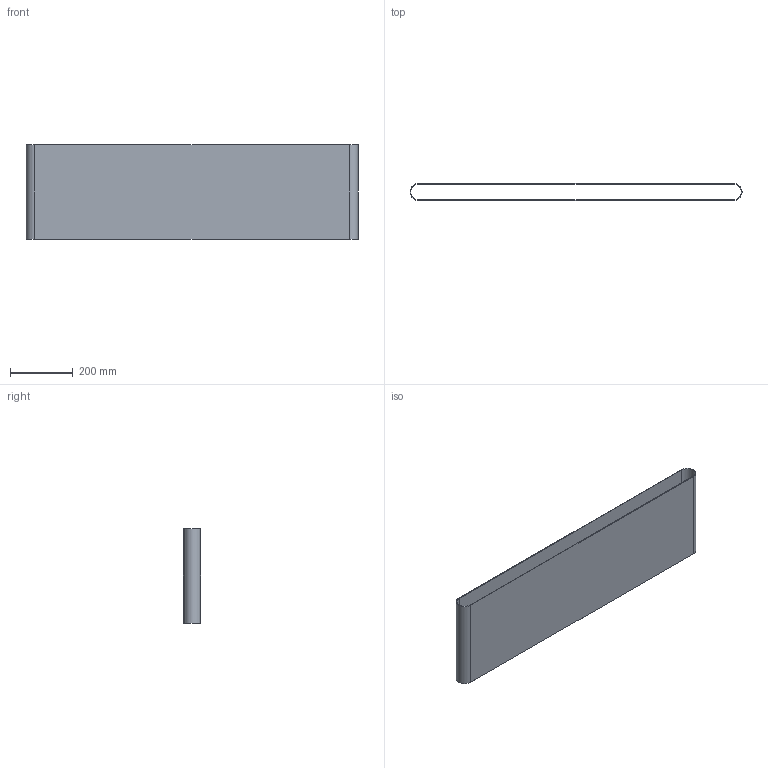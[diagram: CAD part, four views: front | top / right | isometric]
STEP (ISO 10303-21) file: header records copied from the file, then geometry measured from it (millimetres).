
FILE_DESCRIPTION((''),'2;1');
FILE_NAME('C:\Documents and Settings\Administrator\My Documents\Andys Backup Data\ANDY''S INVENTOR\INVENTOR LIBRARIES\MINITEC INVENTOR LIBRARIES\BELT AND ROLLER CONVEYORS\A PACKED FILES\STEP FILES\29.5019_8 CONVEYOR BELT PU.stp','2010-07-06T10:06:28',('Administrator'),(''),'Autodesk Inventor 2009','Autodesk Inventor 2009','');
FILE_SCHEMA(('CONFIG_CONTROL_DESIGN'));
Length unit declared in the file: millimetre
Products named in the file (1): 29.5019_8 CONVEYOR BELT PU
Bounding box: 1054 x 54 x 300 mm (x, y, z)
Volume: 1298017.7 mm3; surface area: 1306671.1 mm2
Topology: 1 solids, 1 shells, 10 faces, 24 edges, 16 vertices
Faces by surface type: plane 6, cylinder 4
Entity records: 317 total; most frequent: DIRECTION 54, CARTESIAN_POINT 51, ORIENTED_EDGE 48, EDGE_CURVE 24, AXIS2_PLACEMENT_3D 19, VERTEX_POINT 16, VECTOR 16, LINE 16
